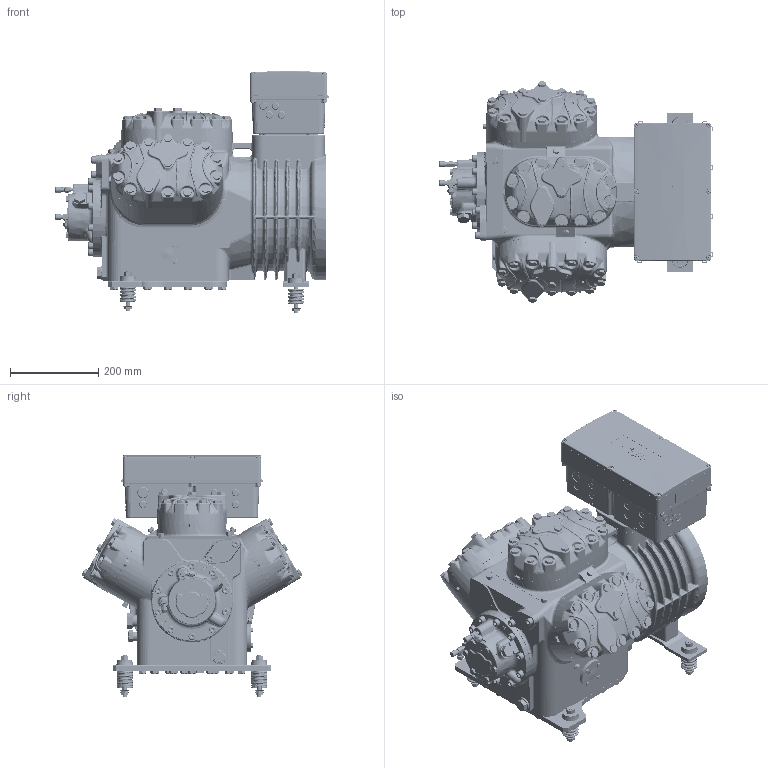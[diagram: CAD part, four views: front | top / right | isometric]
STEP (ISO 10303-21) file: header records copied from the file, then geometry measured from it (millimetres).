
FILE_DESCRIPTION(/* description */ (''),/* implementation_level */ '2;1');
FILE_NAME(/* name */ '6JE-6HE-6GE-6FE-STANDARD.stp',/* time_stamp */ '2023-12-12T09:58:30+01:00',/* author */ (''),/* organization */ (''),/* preprocessor_version */ 'ST-DEVELOPER v19.3',/* originating_system */ 'SIEMENS PLM Software NX2212.3001',/* authorisation */ '');
FILE_SCHEMA (('AUTOMOTIVE_DESIGN { 1 0 10303 214 3 1 1 1 }'));
Products named in the file (11): DAMPER-ELEMENT-COMPL-4J-6F; TERMINAL-BOX-ALU-BE5-CM-RC-02; TERMINAL-BOX-ALU-BE5-15-6-LEAD; BEARING-COVER-DIFF-PR-SENSOR; PLUG-1-2-14-NPTF-COATED; PLUG-3-4-14-NPTF; PLUG-3-8-18NPTF-COATED; BLIND-FLANGE; BODY-BE6; CYL-HEAD-CYL-STANDARD; 6JE-6HE-6GE-6FE-STANDARD
Assembly tree (15 placements, depth 2):
  6JE-6HE-6GE-6FE-STANDARD
    CYL-HEAD-CYL-STANDARD  x3
    BODY-BE6
    BLIND-FLANGE
    PLUG-3-8-18NPTF-COATED
    PLUG-3-4-14-NPTF
    PLUG-1-2-14-NPTF-COATED
    BEARING-COVER-DIFF-PR-SENSOR
    TERMINAL-BOX-ALU-BE5-15-6-LEAD
    TERMINAL-BOX-ALU-BE5-CM-RC-02
    DAMPER-ELEMENT-COMPL-4J-6F  x4
Bounding box: 620.5 x 501.8 x 549.27 mm (x, y, z)
Volume: 57908050.6 mm3; surface area: 2032957.4 mm2
Topology: 16 solids, 84 shells, 11883 faces, 29281 edges, 17972 vertices
Faces by surface type: plane 3828, bspline 3105, cylinder 1546, cone 1392, torus 1026, extrusion 866, sphere 114, revolution 6
Full cylindrical faces by diameter (mm): 3 x4, 4.51 x12, 4.8 x3, 4.826 x10, 5 x15, 5.2 x1, 5.795 x4, 6 x5, 6.5 x4, 6.6 x4, 7.938 x2, 8 x22, 8.782 x1, 8.9 x4, 9.5 x6, 10 x46, 10.287 x4, 10.29 x5, 11 x63, 11.2 x4, 12.2 x8, 13 x2, 13.716 x1, 14.59 x23, 16 x16, 17 x4, 17.145 x1, 18.3 x1, 20 x1, 21 x4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
Entity records: 317456 total; most frequent: CARTESIAN_POINT 118506, ORIENTED_EDGE 42916, DIRECTION 34595, EDGE_CURVE 21458, VERTEX_POINT 13872, AXIS2_PLACEMENT_3D 13294, EDGE_LOOP 10534, ADVANCED_FACE 9111
